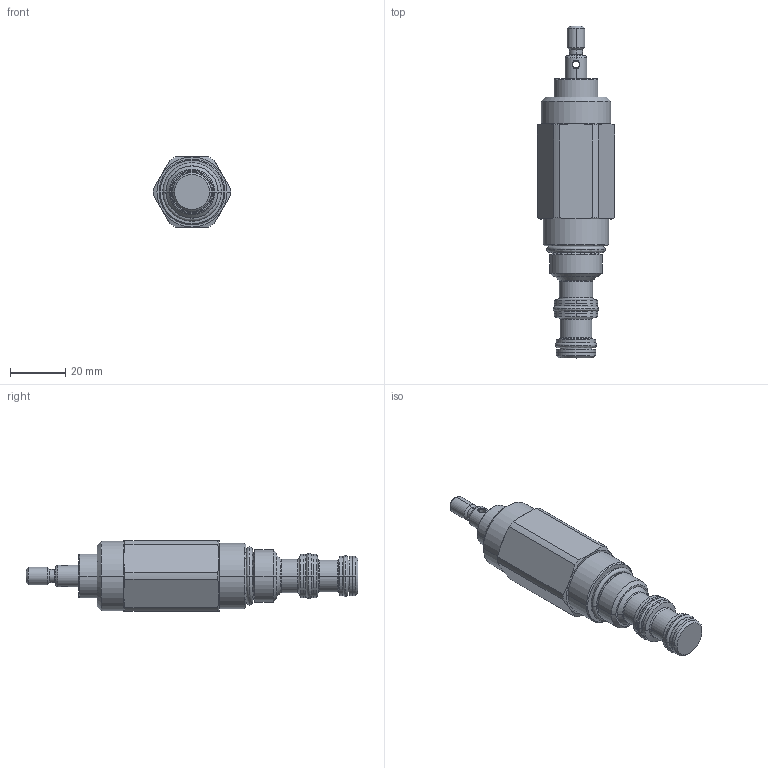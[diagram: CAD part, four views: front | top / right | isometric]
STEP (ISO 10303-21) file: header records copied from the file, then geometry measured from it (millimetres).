
FILE_DESCRIPTION((''),'2;1');
FILE_NAME('MP08-3XT','2009-02-04T',('jcs'),(''),'PRO/ENGINEER BY PARAMETRIC TECHNOLOGY CORPORATION, 2008010','PRO/ENGINEER BY PARAMETRIC TECHNOLOGY CORPORATION, 2008010','');
FILE_SCHEMA(('CONFIG_CONTROL_DESIGN'));
Length unit declared in the file: inch
Products named in the file (1): MP08-3XT
Bounding box: 28.04 x 120.32 x 25.4 mm (x, y, z)
Volume: 37420.7 mm3; surface area: 9808.6 mm2
Topology: 4 solids, 4 shells, 160 faces, 341 edges, 198 vertices
Faces by surface type: cylinder 48, cone 41, plane 25, revolution 24, torus 22
Entity records: 4923 total; most frequent: CARTESIAN_POINT 1359, DIRECTION 795, ORIENTED_EDGE 682, EDGE_CURVE 341, AXIS2_PLACEMENT_3D 340, CIRCLE 204, VERTEX_POINT 198, EDGE_LOOP 177
